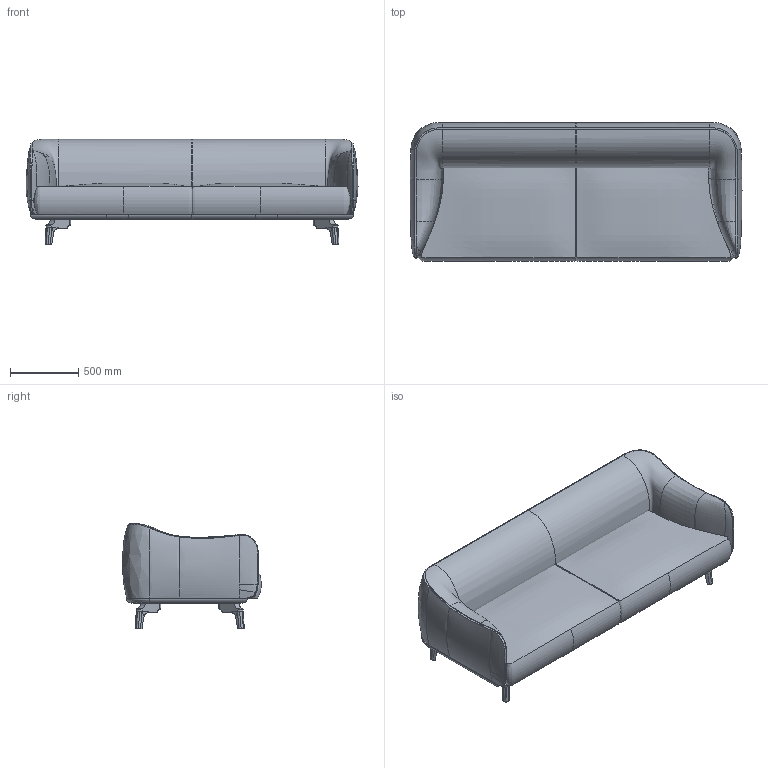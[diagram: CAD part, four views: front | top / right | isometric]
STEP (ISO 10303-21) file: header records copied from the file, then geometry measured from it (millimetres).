
FILE_DESCRIPTION(/* description */ (''),/* implementation_level */ '2;1');
FILE_NAME(/* name */ 'C:\Users\ronnie\Desktop\59020 DRIVE cm240.stp',/* time_stamp */ '2016-07-25T10:27:29+02:00',/* author */ ('ronnie'),/* organization */ (''),/* preprocessor_version */ 'ST-DEVELOPER v16.5',/* originating_system */ 'AutoCAD Mechanical',/* authorisation */ '');
FILE_SCHEMA (('AUTOMOTIVE_DESIGN { 1 0 10303 214 3 1 1 }'));
Length unit declared in the file: millimetre
Products named in the file (1): Product
Bounding box: 2440.51 x 1019.85 x 774.25 mm (x, y, z)
Volume: 385988681.7 mm3; surface area: 14889199.7 mm2
Topology: 12 solids, 14 shells, 424 faces, 1030 edges, 638 vertices
Faces by surface type: bspline 156, cylinder 136, plane 118, torus 8, cone 6
Entity records: 87280 total; most frequent: CARTESIAN_POINT 78119, ORIENTED_EDGE 1986, DIRECTION 1618, EDGE_CURVE 1020, VERTEX_POINT 638, AXIS2_PLACEMENT_3D 583, EDGE_LOOP 480, LINE 452
